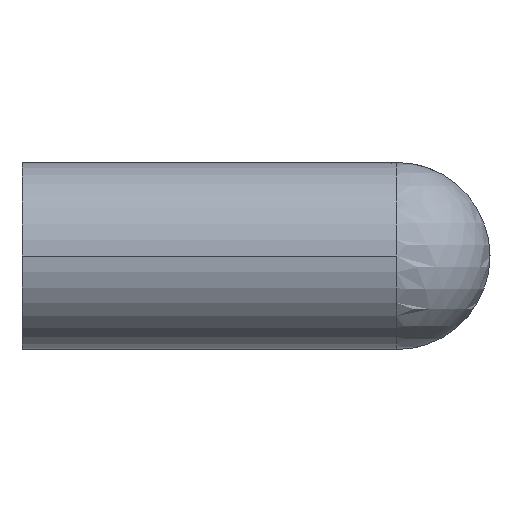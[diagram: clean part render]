
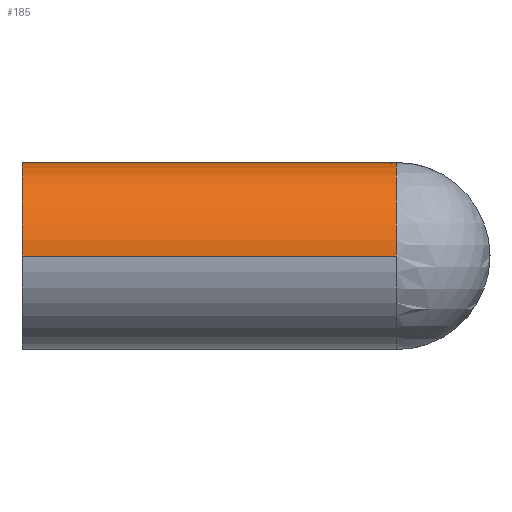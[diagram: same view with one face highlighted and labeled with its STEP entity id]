
A CAD part, left-side view. The second image highlights one B-rep face of the part: STEP entity #185.
In plain terms, the highlighted cylindrical face has radius 6 mm (diameter 12 mm), a partial arc.
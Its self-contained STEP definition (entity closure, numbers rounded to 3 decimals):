
#105 = VERTEX_POINT( '', #259 );
#131 = EDGE_CURVE( '', #171, #203, #288, .T. );
#141 = EDGE_CURVE( '', #201, #105, #300, .T. );
#171 = VERTEX_POINT( '', #338 );
#177 = EDGE_CURVE( '', #203, #105, #345, .T. );
#185 = ADVANCED_FACE( '', ( #355 ), #356, .T. );
#199 = EDGE_CURVE( '', #215, #201, #371, .T. );
#201 = VERTEX_POINT( '', #373 );
#203 = VERTEX_POINT( '', #375 );
#215 = VERTEX_POINT( '', #387 );
#217 = EDGE_CURVE( '', #171, #215, #389, .T. );
#259 = CARTESIAN_POINT( '', ( 6., -18., 0. ) );
#288 = CIRCLE( '', #462, 6. );
#300 = LINE( '', #477, #478 );
#338 = CARTESIAN_POINT( '', ( -6., -24., 0. ) );
#345 = ELLIPSE( '', #527, 8.485, 6. );
#355 = FACE_OUTER_BOUND( '', #539, .T. );
#356 = CYLINDRICAL_SURFACE( '', #540, 6. );
#371 = CIRCLE( '', #561, 6. );
#373 = CARTESIAN_POINT( '', ( 6., 0., 0. ) );
#375 = CARTESIAN_POINT( '', ( 0., -24., 6. ) );
#387 = CARTESIAN_POINT( '', ( -6., 0., 0. ) );
#389 = LINE( '', #585, #586 );
#462 = AXIS2_PLACEMENT_3D( '', #648, #649, #650 );
#477 = CARTESIAN_POINT( '', ( 6., 0., 0. ) );
#478 = VECTOR( '', #672, 1. );
#527 = AXIS2_PLACEMENT_3D( '', #741, #742, #743 );
#539 = EDGE_LOOP( '', ( #762, #763, #764, #765, #766 ) );
#540 = AXIS2_PLACEMENT_3D( '', #767, #768, #769 );
#561 = AXIS2_PLACEMENT_3D( '', #789, #790, #791 );
#585 = CARTESIAN_POINT( '', ( -6., 0., 0. ) );
#586 = VECTOR( '', #797, 1. );
#648 = CARTESIAN_POINT( '', ( 0., -24., 0. ) );
#649 = DIRECTION( '', ( 0., 1., 0. ) );
#650 = DIRECTION( '', ( 1., 0., 0. ) );
#672 = DIRECTION( '', ( 0., -1., 0. ) );
#741 = CARTESIAN_POINT( '', ( 0., -24., 0. ) );
#742 = DIRECTION( '', ( -0.707, 0.707, 0. ) );
#743 = DIRECTION( '', ( 0.707, 0.707, 0. ) );
#762 = ORIENTED_EDGE( '', *, *, #141, .F. );
#763 = ORIENTED_EDGE( '', *, *, #199, .F. );
#764 = ORIENTED_EDGE( '', *, *, #217, .F. );
#765 = ORIENTED_EDGE( '', *, *, #131, .T. );
#766 = ORIENTED_EDGE( '', *, *, #177, .T. );
#767 = CARTESIAN_POINT( '', ( 0., 0., 0. ) );
#768 = DIRECTION( '', ( 0., 1., 0. ) );
#769 = DIRECTION( '', ( 1., 0., 0. ) );
#789 = CARTESIAN_POINT( '', ( 0., 0., 0. ) );
#790 = DIRECTION( '', ( 0., 1., 0. ) );
#791 = DIRECTION( '', ( 1., 0., 0. ) );
#797 = DIRECTION( '', ( 0., 1., 0. ) );
